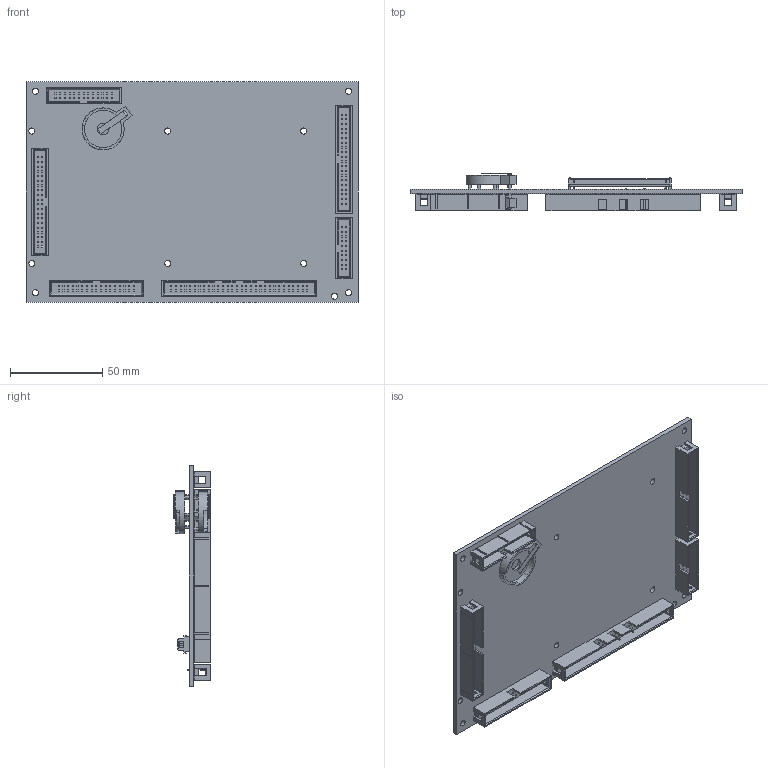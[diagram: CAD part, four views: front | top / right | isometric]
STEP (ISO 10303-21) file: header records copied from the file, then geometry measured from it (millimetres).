
FILE_DESCRIPTION((''),'2;1');
FILE_NAME('CU_NI-9683','2012-08-16T',('dkendric'),(''),'PRO/ENGINEER BY PARAMETRIC TECHNOLOGY CORPORATION, 2011490','PRO/ENGINEER BY PARAMETRIC TECHNOLOGY CORPORATION, 2011490','');
FILE_SCHEMA(('CONFIG_CONTROL_DESIGN'));
Length unit declared in the file: inch
Products named in the file (1): CU_NI-9683
Bounding box: 179.83 x 20.02 x 119.38 mm (x, y, z)
Volume: 67632.3 mm3; surface area: 67609.7 mm2
Topology: 1 solids, 1 shells, 1817 faces, 5339 edges, 3506 vertices
Faces by surface type: plane 1691, cylinder 126
Entity records: 60453 total; most frequent: ORIENTED_EDGE 10678, CARTESIAN_POINT 10662, DIRECTION 9249, EDGE_CURVE 5339, VECTOR 5063, LINE 5063, VERTEX_POINT 3506, EDGE_LOOP 2421
